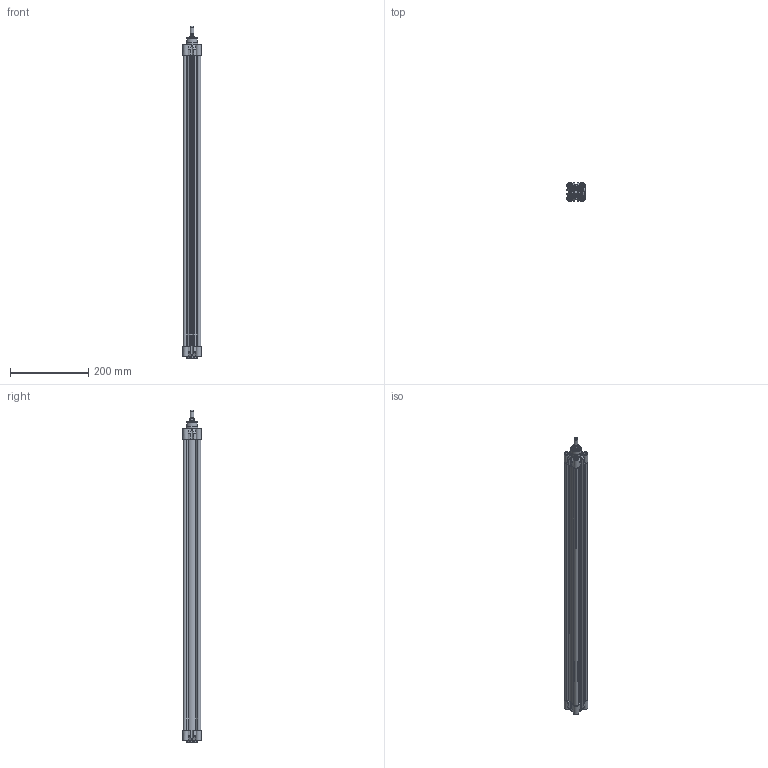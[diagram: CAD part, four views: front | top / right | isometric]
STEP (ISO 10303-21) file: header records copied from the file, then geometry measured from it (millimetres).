
FILE_DESCRIPTION(/* description */ ('CILINDRO D.E. MAGNETICO AMMORTIZZATO ISO 15552'),/* implementation_level */ '2;1');
FILE_NAME(/* name */ 'T:\Archivio Inventor\- 00 NUOVI STP PER SITO CON STELO CHE SI MUOVE\SERIE H - U\SERIE HDM\HDM032-TUBO NUOVO\HDM032.700.GS.M.stp',/* time_stamp */ '2018-07-25T14:30:20+02:00',/* author */ ('carlo.corazza'),/* organization */ (''),/* preprocessor_version */ 'ST-DEVELOPER v16.5',/* originating_system */ 'Autodesk Inventor 2017',/* authorisation */ '');
FILE_SCHEMA (('AUTOMOTIVE_DESIGN { 1 0 10303 214 3 1 1 }'));
Length unit declared in the file: millimetre
Products named in the file (5): HDM032.700.GS.M; TP; STELO-700; TA; CORPO-700
Assembly tree (4 placements, depth 2):
  HDM032.700.GS.M
    TP
    STELO-700
    TA
    CORPO-700
Bounding box: 47 x 47 x 846 mm (x, y, z)
Volume: 554156.4 mm3; surface area: 420134.4 mm2
Topology: 4 solids, 18 shells, 969 faces, 2356 edges, 1494 vertices
Faces by surface type: plane 330, cylinder 260, bspline 190, cone 86, torus 83, sphere 20
Full cylindrical faces by diameter (mm): 2 x2, 2.1 x2, 4 x2, 4.5 x2, 4.917 x8, 6 x8, 6.2 x8, 6.3 x4, 7 x2, 7.8 x4, 7.9 x3, 8 x4, 8.566 x2, 10 x9, 10.3 x8, 11.6 x1, 12 x1, 12.8 x1, 12.847 x1, 16 x1, 17 x2, 22 x3, 28 x1, 30 x2, 32 x1
Entity records: 31186 total; most frequent: CARTESIAN_POINT 9171, ORIENTED_EDGE 4162, DIRECTION 4048, EDGE_CURVE 2081, AXIS2_PLACEMENT_3D 1569, VERTEX_POINT 1436, EDGE_LOOP 1302, FACE_OUTER_BOUND 969
